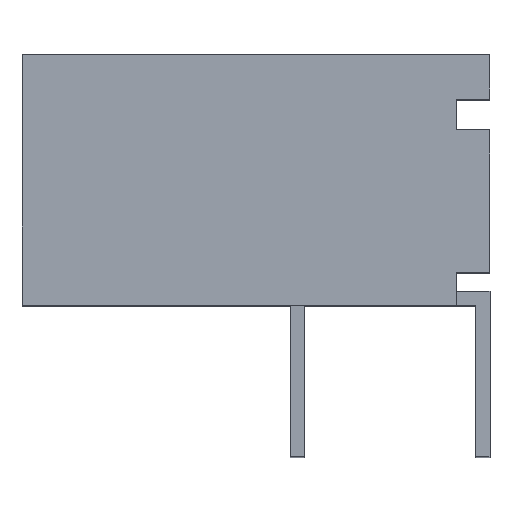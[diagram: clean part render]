
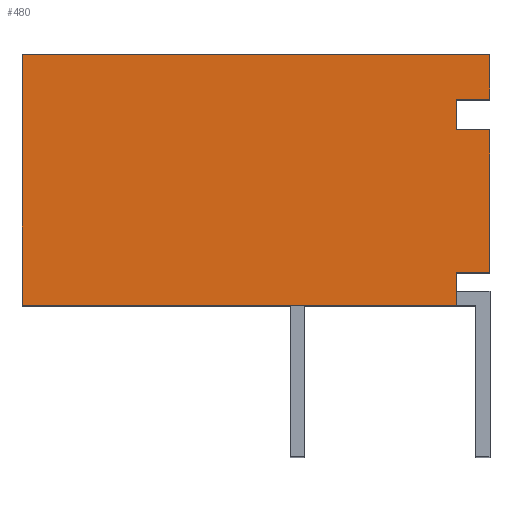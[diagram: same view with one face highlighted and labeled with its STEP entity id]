
A CAD part, top view. The second image highlights one B-rep face of the part: STEP entity #480.
In plain terms, the highlighted planar face has unit normal (0, 0, 1).
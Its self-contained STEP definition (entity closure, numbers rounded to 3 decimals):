
#4 = ORIENTED_EDGE ( 'NONE', *, *, #1092, .F. ) ;
#12 = CARTESIAN_POINT ( 'NONE',  ( 10.8, 14., 46.7 ) ) ;
#20 = CARTESIAN_POINT ( 'NONE',  ( 10.8, 47.6, 46.7 ) ) ;
#46 = CARTESIAN_POINT ( 'NONE',  ( 74.044, 42.6, 46.7 ) ) ;
#50 = CARTESIAN_POINT ( 'NONE',  ( -60., 14., 46.7 ) ) ;
#79 = PLANE ( 'NONE',  #90 ) ;
#90 = AXIS2_PLACEMENT_3D ( 'NONE', #610, #444, #1496 ) ;
#93 = DIRECTION ( 'NONE',  ( 0., -1., 0. ) ) ;
#96 = EDGE_CURVE ( 'NONE', #683, #1515, #397, .T. ) ;
#159 = CARTESIAN_POINT ( 'NONE',  ( -60., 54.9, 46.7 ) ) ;
#168 = VERTEX_POINT ( 'NONE', #1179 ) ;
#225 = VECTOR ( 'NONE', #572, 1000. ) ;
#231 = CARTESIAN_POINT ( 'NONE',  ( 16.3, 47.6, 46.7 ) ) ;
#234 = EDGE_CURVE ( 'NONE', #422, #1596, #525, .T. ) ;
#242 = ORIENTED_EDGE ( 'NONE', *, *, #1325, .T. ) ;
#263 = VECTOR ( 'NONE', #312, 1000. ) ;
#281 = EDGE_CURVE ( 'NONE', #168, #683, #305, .T. ) ;
#302 = EDGE_CURVE ( 'NONE', #1041, #1122, #918, .T. ) ;
#305 = LINE ( 'NONE', #12, #426 ) ;
#312 = DIRECTION ( 'NONE',  ( -1., 0., 0. ) ) ;
#313 = ORIENTED_EDGE ( 'NONE', *, *, #1614, .F. ) ;
#338 = VERTEX_POINT ( 'NONE', #1601 ) ;
#397 = LINE ( 'NONE', #518, #1028 ) ;
#422 = VERTEX_POINT ( 'NONE', #1133 ) ;
#425 = CARTESIAN_POINT ( 'NONE',  ( 10.8, 14., 46.7 ) ) ;
#426 = VECTOR ( 'NONE', #1065, 1000. ) ;
#436 = LINE ( 'NONE', #452, #1650 ) ;
#444 = DIRECTION ( 'NONE',  ( 0., 0., 1. ) ) ;
#452 = CARTESIAN_POINT ( 'NONE',  ( 27.13, 47.6, 46.7 ) ) ;
#480 = ADVANCED_FACE ( 'NONE', ( #741 ), #79, .T. ) ;
#497 = DIRECTION ( 'NONE',  ( 0., 1., 0. ) ) ;
#518 = CARTESIAN_POINT ( 'NONE',  ( -60., 14., 46.7 ) ) ;
#525 = LINE ( 'NONE', #231, #835 ) ;
#542 = VERTEX_POINT ( 'NONE', #698 ) ;
#570 = ORIENTED_EDGE ( 'NONE', *, *, #302, .T. ) ;
#572 = DIRECTION ( 'NONE',  ( -1., 0., 0. ) ) ;
#603 = ORIENTED_EDGE ( 'NONE', *, *, #653, .F. ) ;
#610 = CARTESIAN_POINT ( 'NONE',  ( 10.8, 14., 46.7 ) ) ;
#618 = CARTESIAN_POINT ( 'NONE',  ( 10.8, 14., 46.7 ) ) ;
#653 = EDGE_CURVE ( 'NONE', #1596, #1122, #436, .T. ) ;
#668 = DIRECTION ( 'NONE',  ( 0., 1., 0. ) ) ;
#683 = VERTEX_POINT ( 'NONE', #50 ) ;
#698 = CARTESIAN_POINT ( 'NONE',  ( 16.3, 19.3, 46.7 ) ) ;
#707 = DIRECTION ( 'NONE',  ( -1., 0., 0. ) ) ;
#719 = LINE ( 'NONE', #46, #225 ) ;
#741 = FACE_OUTER_BOUND ( 'NONE', #1208, .T. ) ;
#758 = VECTOR ( 'NONE', #497, 1000. ) ;
#765 = EDGE_CURVE ( 'NONE', #168, #338, #1670, .T. ) ;
#785 = CARTESIAN_POINT ( 'NONE',  ( 10.8, 54.9, 46.7 ) ) ;
#835 = VECTOR ( 'NONE', #93, 1000. ) ;
#866 = CARTESIAN_POINT ( 'NONE',  ( 16.3, 47.6, 46.7 ) ) ;
#891 = DIRECTION ( 'NONE',  ( 0., -1., 0. ) ) ;
#918 = LINE ( 'NONE', #425, #1083 ) ;
#968 = ORIENTED_EDGE ( 'NONE', *, *, #765, .T. ) ;
#977 = ORIENTED_EDGE ( 'NONE', *, *, #96, .F. ) ;
#984 = CARTESIAN_POINT ( 'NONE',  ( 16.3, 42.6, 46.7 ) ) ;
#1028 = VECTOR ( 'NONE', #1160, 1000. ) ;
#1041 = VERTEX_POINT ( 'NONE', #1723 ) ;
#1065 = DIRECTION ( 'NONE',  ( -1., 0., 0. ) ) ;
#1083 = VECTOR ( 'NONE', #668, 1000. ) ;
#1092 = EDGE_CURVE ( 'NONE', #542, #338, #1373, .T. ) ;
#1101 = CARTESIAN_POINT ( 'NONE',  ( 74.044, 19.3, 46.7 ) ) ;
#1122 = VERTEX_POINT ( 'NONE', #20 ) ;
#1133 = CARTESIAN_POINT ( 'NONE',  ( 16.3, 54.9, 46.7 ) ) ;
#1152 = CARTESIAN_POINT ( 'NONE',  ( 16.3, 42.6, 46.7 ) ) ;
#1160 = DIRECTION ( 'NONE',  ( 0., 1., 0. ) ) ;
#1179 = CARTESIAN_POINT ( 'NONE',  ( 10.8, 14., 46.7 ) ) ;
#1208 = EDGE_LOOP ( 'NONE', ( #977, #1229, #968, #4, #313, #1492, #570, #603, #1498, #242 ) ) ;
#1229 = ORIENTED_EDGE ( 'NONE', *, *, #281, .F. ) ;
#1269 = VERTEX_POINT ( 'NONE', #1152 ) ;
#1316 = DIRECTION ( 'NONE',  ( -1., 0., 0. ) ) ;
#1325 = EDGE_CURVE ( 'NONE', #422, #1515, #1432, .T. ) ;
#1373 = LINE ( 'NONE', #1101, #263 ) ;
#1390 = LINE ( 'NONE', #984, #1545 ) ;
#1432 = LINE ( 'NONE', #785, #1517 ) ;
#1450 = EDGE_CURVE ( 'NONE', #1269, #1041, #719, .T. ) ;
#1492 = ORIENTED_EDGE ( 'NONE', *, *, #1450, .T. ) ;
#1496 = DIRECTION ( 'NONE',  ( 1., 0., 0. ) ) ;
#1498 = ORIENTED_EDGE ( 'NONE', *, *, #234, .F. ) ;
#1515 = VERTEX_POINT ( 'NONE', #159 ) ;
#1517 = VECTOR ( 'NONE', #1316, 1000. ) ;
#1545 = VECTOR ( 'NONE', #891, 1000. ) ;
#1596 = VERTEX_POINT ( 'NONE', #866 ) ;
#1601 = CARTESIAN_POINT ( 'NONE',  ( 10.8, 19.3, 46.7 ) ) ;
#1614 = EDGE_CURVE ( 'NONE', #1269, #542, #1390, .T. ) ;
#1650 = VECTOR ( 'NONE', #707, 1000. ) ;
#1670 = LINE ( 'NONE', #618, #758 ) ;
#1723 = CARTESIAN_POINT ( 'NONE',  ( 10.8, 42.6, 46.7 ) ) ;
